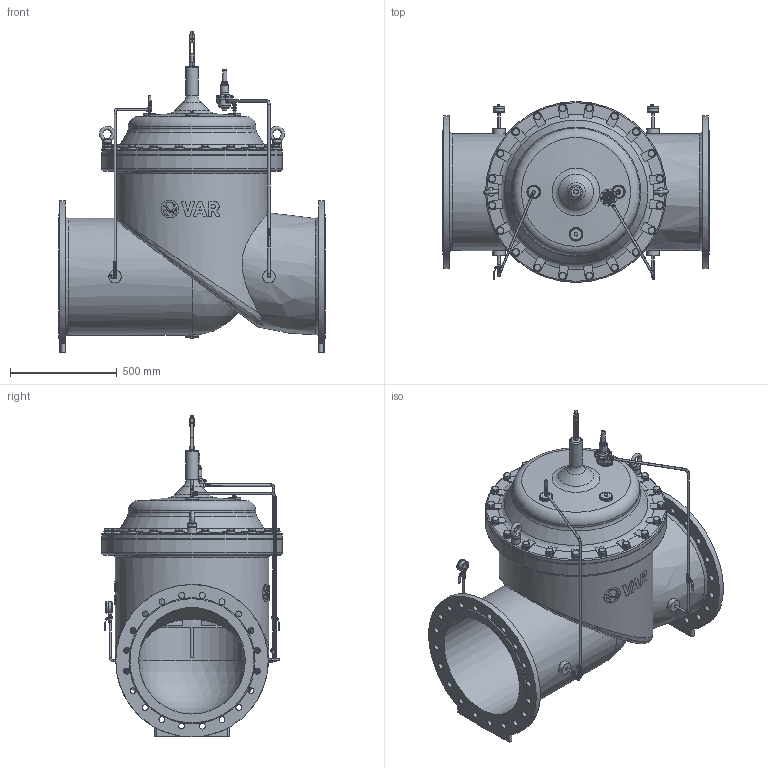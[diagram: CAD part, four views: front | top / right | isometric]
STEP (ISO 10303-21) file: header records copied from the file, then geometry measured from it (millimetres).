
FILE_DESCRIPTION(('STEP AP242'), '1');
FILE_NAME('PICO C200', '', ('UNSPECIFIED'), ('UNSPECIFIED'), 'C3D Converter', 'C3D Toolkit', '');
FILE_SCHEMA(('AP242_MANAGED_MODEL_BASED_3D_ENGINEERING_MIM_LF { 1 0 10303 442 1 1 4 }'));
Length unit declared in the file: millimetre
Products named in the file (26): М; ВР.752218.002
Assembly tree (85 placements, depth 3):
  (unnamed)
    (unnamed)
    (unnamed)
    (unnamed)
    (unnamed)
    (unnamed)
    (unnamed)
    (unnamed)
    М  x2
    (unnamed)
    (unnamed)  x4
    ВР.752218.002  x2
    (unnamed)  x6
    (unnamed)
    (unnamed)  x4
    (unnamed)
    (unnamed)
      (unnamed)
      (unnamed)
      (unnamed)  x8
      (unnamed)
    (unnamed)
    (unnamed)  x2
    (unnamed)  x2
    (unnamed)  x20
    (unnamed)  x20
Bounding box: 1250 x 848.5 x 1509.5 mm (x, y, z)
Volume: 153034220.3 mm3; surface area: 13014856.6 mm2
Topology: 91 solids, 93 shells, 3382 faces, 8309 edges, 5377 vertices
Faces by surface type: plane 1869, cylinder 725, cone 440, extrusion 143, torus 107, bspline 87, sphere 11
Full cylindrical faces by diameter (mm): 0.518 x2, 1.2 x1, 2.5 x2, 3 x8, 4 x25, 4.2 x4, 4.5 x4, 5 x2, 6 x8, 7 x8, 8 x5, 8.7 x1, 9 x16, 9.3 x6, 9.5 x2, 10 x4, 10.2 x4, 10.8 x2, 11 x18, 11.16 x4, 11.179 x6, 11.22 x4, 11.4 x2, 11.577 x2, 12 x10, 12.5 x3, 12.573 x15, 13.157 x2, 13.8 x4, 14.4 x5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
Entity records: 122684 total; most frequent: CARTESIAN_POINT 70427, ORIENTED_EDGE 8228, DIRECTION 7590, EDGE_CURVE 4114, VERTEX_POINT 2981, AXIS2_PLACEMENT_3D 2843, EDGE_LOOP 2661, FACE_BOUND 2027
